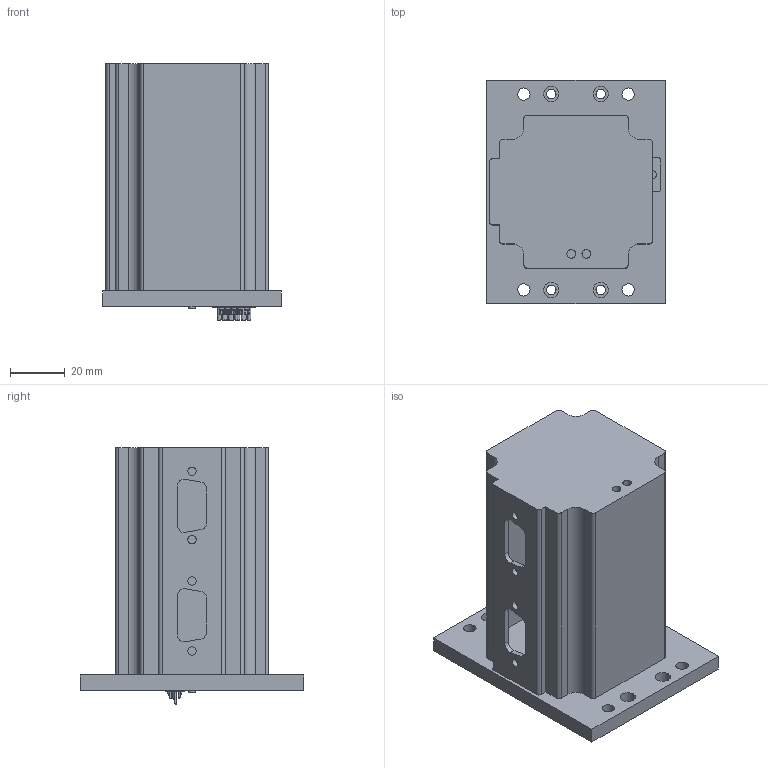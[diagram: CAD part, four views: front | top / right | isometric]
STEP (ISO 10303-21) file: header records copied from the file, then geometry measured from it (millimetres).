
FILE_DESCRIPTION(/* description */ ('Alibre Inc.'),/* implementation_level */ '2;1');
FILE_NAME(/* name */ 'export0',/* time_stamp */ '2008-01-28T15:39:30-08:00',/* author */ (''),/* organization */ (''),/* preprocessor_version */ 'ST-DEVELOPER v10',/* originating_system */ 'Alibre',/* authorisation */ '');
FILE_SCHEMA (('ALIBRE_SCHEMA','CONFIG_CONTROL_DESIGN'));
Length unit declared in the file: inch
Products named in the file (7): ID_1
Bounding box: 65.28 x 81.79 x 93.57 mm (x, y, z)
Volume: 69372 mm3; surface area: 57009.9 mm2
Topology: 6 solids, 6 shells, 1199 faces, 2967 edges, 1908 vertices
Faces by surface type: plane 570, cylinder 437, bspline 122, torus 70
Full cylindrical faces by diameter (mm): 2.489 x1, 2.87 x1, 3.048 x4, 3.175 x4, 3.505 x4, 4.496 x4, 5.588 x4
Entity records: 116882 total; most frequent: CARTESIAN_POINT 57404, ORIENTED_EDGE 11204, DIRECTION 8811, EDGE_CURVE 5602, VERTEX_POINT 3604, VECTOR 3341, AXIS2_PLACEMENT_3D 3313, LINE 3261
